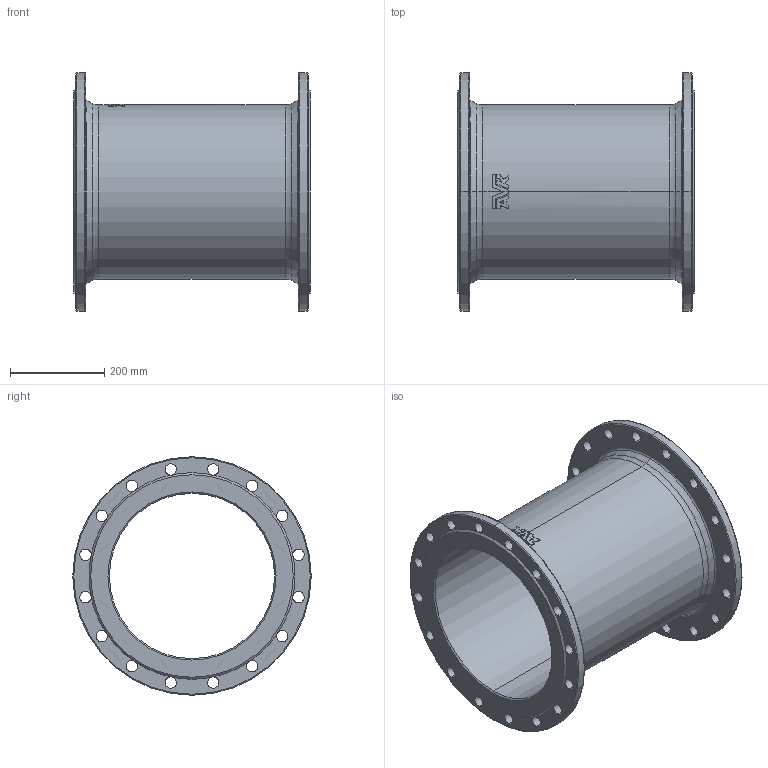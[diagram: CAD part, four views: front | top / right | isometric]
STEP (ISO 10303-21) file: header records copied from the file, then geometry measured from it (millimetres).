
FILE_DESCRIPTION (( 'STEP AP203' ), '1' );
FILE_NAME ('O_712_4810_DN350_0X_REV01.step', '2021-12-01T10:50:35', ( '' ), ( '' ), 'SwSTEP 2.0', 'SolidWorks 2019', '' );
FILE_SCHEMA (( 'CONFIG_CONTROL_DESIGN' ));
Length unit declared in the file: millimetre
Products named in the file (1): O_712_4810_DN350_0X_REV01
Bounding box: 500 x 505 x 505 mm (x, y, z)
Volume: 9469833.1 mm3; surface area: 1529718.9 mm2
Topology: 1 solids, 1 shells, 148 faces, 487 edges, 316 vertices
Faces by surface type: cylinder 77, plane 26, bspline 17, torus 16, cone 12
Entity records: 6690 total; most frequent: CARTESIAN_POINT 2167, ORIENTED_EDGE 974, DIRECTION 959, EDGE_CURVE 487, AXIS2_PLACEMENT_3D 414, VERTEX_POINT 316, CIRCLE 282, EDGE_LOOP 189
